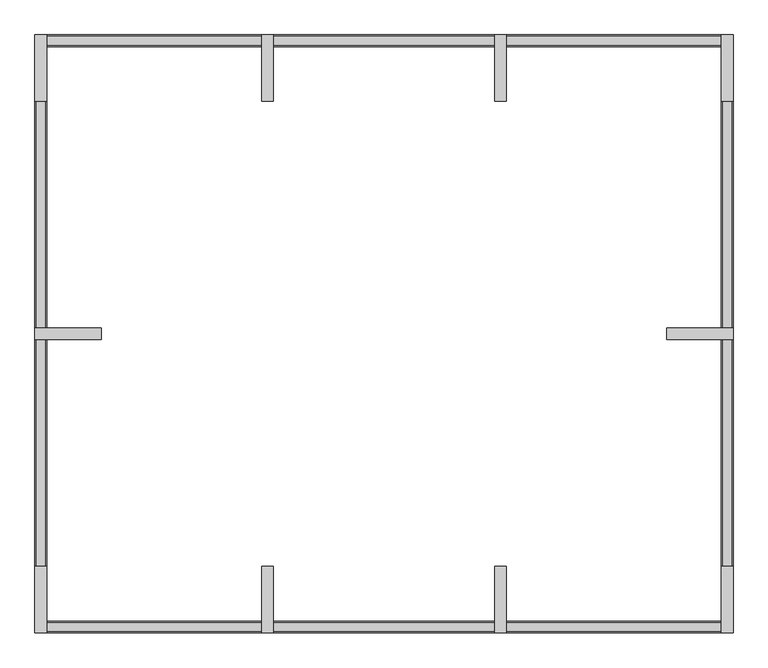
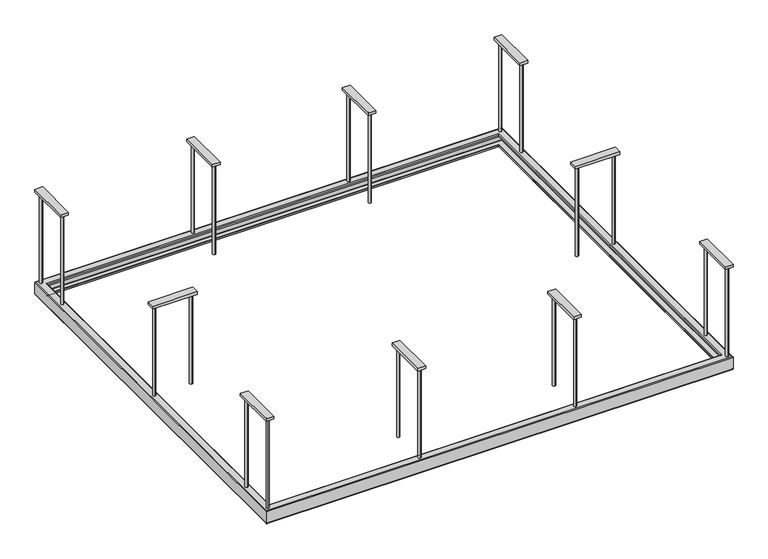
"""IFC4 building model written with IfcOpenShell, lengths in millimetres: furniture geometry, H07 Ducto laboratorios cuadrado : H07 Ducto laboratorios."""

from ifc_helpers import new_model, si_unit, point, frame, frame_2d, origin, place, context, project, spatial, polyline, circle_curve, ellipse_curve, trimmed, segment, composite_curve, outline, extrude, source, transform, mapped, element, save
from ifc_brep_helpers import plane_surface, cylinder_surface, revolved_surface, advanced_brep


def furniture_eb17cc9a(model_context):
    return source(origin(), model_context, "Body", "SolidModel", [
        advanced_brep(
        [(-1985.2996736, -3530.0, 2200.0), (-1985.2996736, -3530.0, 2214.0), (2074.7003264, -3530.0, 2214.0), (2074.7003264, -3530.0, 2200.0), (-1987.2996736, -3532.0, 2214.0), (-1987.2996736, -3532.0, 2200.0), (2076.7003264, -3532.0, 2200.0), (2076.7003264, -3532.0, 2214.0), (-1991.2996736, -3536.0, 2218.0), (2080.7003264, -3536.0, 2218.0), (-2053.2996736, -3598.0, 2214.0), (-2049.2996736, -3594.0, 2218.0), (2138.7003264, -3594.0, 2218.0), (2142.7003264, -3598.0, 2214.0), (-2053.2996736, -3598.0, 2106.0), (2142.7003264, -3598.0, 2106.0), (-2049.2996736, -3594.0, 2102.0), (2138.7003264, -3594.0, 2102.0), (-1987.2996736, -3532.0, 2106.0), (-1991.2996736, -3536.0, 2102.0), (2080.7003264, -3536.0, 2102.0), (2076.7003264, -3532.0, 2106.0), (-1987.2996736, -3532.0, 2120.0), (2076.7003264, -3532.0, 2120.0), (-1985.2996736, -3530.0, 2106.0), (-1985.2996736, -3530.0, 2120.0), (2074.7003264, -3530.0, 2120.0), (2074.7003264, -3530.0, 2106.0), (-1991.2996736, -3536.0, 2100.0), (2080.7003264, -3536.0, 2100.0), (-2055.2996736, -3600.0, 2106.0), (-2049.2996736, -3594.0, 2100.0), (2138.7003264, -3594.0, 2100.0), (2144.7003264, -3600.0, 2106.0), (-2055.2996736, -3600.0, 2214.0), (2144.7003264, -3600.0, 2214.0), (-2049.2996736, -3594.0, 2220.0), (2138.7003264, -3594.0, 2220.0), (-1991.2996736, -3536.0, 2220.0), (2080.7003264, -3536.0, 2220.0), (2074.7003264, -70.0, 2214.0), (2074.7003264, -70.0, 2200.0), (2076.7003264, -68.0, 2200.0), (2076.7003264, -68.0, 2214.0), (2080.7003264, -64.0, 2218.0), (2138.7003264, -6.0, 2218.0), (2142.7003264, -2.0, 2214.0), (2142.7003264, -2.0, 2106.0), (2138.7003264, -6.0, 2102.0), (2080.7003264, -64.0, 2102.0), (2076.7003264, -68.0, 2106.0), (2076.7003264, -68.0, 2120.0), (2074.7003264, -70.0, 2120.0), (2074.7003264, -70.0, 2106.0), (2080.7003264, -64.0, 2100.0), (2138.7003264, -6.0, 2100.0), (2144.7003264, 0.0, 2106.0), (2144.7003264, 0.0, 2214.0), (2138.7003264, -6.0, 2220.0), (2080.7003264, -64.0, 2220.0), (-1985.2996736, -70.0, 2214.0), (-1985.2996736, -70.0, 2200.0), (-1987.2996736, -68.0, 2200.0), (-1987.2996736, -68.0, 2214.0), (-1991.2996736, -64.0, 2218.0), (-2049.2996736, -6.0, 2218.0), (-2053.2996736, -2.0, 2214.0), (-2053.2996736, -2.0, 2106.0), (-2049.2996736, -6.0, 2102.0), (-1991.2996736, -64.0, 2102.0), (-1987.2996736, -68.0, 2106.0), (-1987.2996736, -68.0, 2120.0), (-1985.2996736, -70.0, 2120.0), (-1985.2996736, -70.0, 2106.0), (-1991.2996736, -64.0, 2100.0), (-2049.2996736, -6.0, 2100.0), (-2055.2996736, 0.0, 2106.0), (-2055.2996736, 0.0, 2214.0), (-2049.2996736, -6.0, 2220.0), (-1991.2996736, -64.0, 2220.0)],
        [
            (0, 1),
            (1, 2),
            (2, 3),
            (3, 0),
            (4, 5),
            (5, 6),
            (6, 7),
            (7, 4),
            (8, 4, ellipse_curve(frame((-1991.2996736, -3536.0, 2214.0), z_axis=(-0.7071067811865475, 0.7071067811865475, 0.0), x_axis=(0.7071067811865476, 0.7071067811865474, 0.0)), 5.6568542, 4.0)),
            (7, 9, ellipse_curve(frame((2080.7003264, -3536.0, 2214.0), z_axis=(0.7071067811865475, 0.7071067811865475, 0.0), x_axis=(0.7071067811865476, -0.7071067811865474, 0.0)), 5.6568542, 4.0)),
            (9, 8),
            (10, 11, ellipse_curve(frame((-2049.2996736, -3594.0, 2214.0), z_axis=(-0.7071067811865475, 0.7071067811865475, 0.0), x_axis=(0.7071067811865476, 0.7071067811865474, 0.0)), 5.6568542, 4.0)),
            (11, 12),
            (12, 13, ellipse_curve(frame((2138.7003264, -3594.0, 2214.0), z_axis=(0.7071067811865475, 0.7071067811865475, 0.0), x_axis=(0.7071067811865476, -0.7071067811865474, 0.0)), 5.6568542, 4.0)),
            (13, 10),
            (14, 10),
            (13, 15),
            (15, 14),
            (16, 14, ellipse_curve(frame((-2049.2996736, -3594.0, 2106.0), z_axis=(-0.7071067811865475, 0.7071067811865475, 0.0), x_axis=(0.7071067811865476, 0.7071067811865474, 0.0)), 5.6568542, 4.0)),
            (15, 17, ellipse_curve(frame((2138.7003264, -3594.0, 2106.0), z_axis=(0.7071067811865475, 0.7071067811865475, 0.0), x_axis=(0.7071067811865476, -0.7071067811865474, 0.0)), 5.6568542, 4.0)),
            (17, 16),
            (18, 19, ellipse_curve(frame((-1991.2996736, -3536.0, 2106.0), z_axis=(-0.7071067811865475, 0.7071067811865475, 0.0), x_axis=(0.7071067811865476, 0.7071067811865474, 0.0)), 5.6568542, 4.0)),
            (19, 20),
            (20, 21, ellipse_curve(frame((2080.7003264, -3536.0, 2106.0), z_axis=(0.7071067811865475, 0.7071067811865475, 0.0), x_axis=(0.7071067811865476, -0.7071067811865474, 0.0)), 5.6568542, 4.0)),
            (21, 18),
            (22, 18),
            (21, 23),
            (23, 22),
            (24, 25),
            (25, 26),
            (26, 27),
            (27, 24),
            (28, 24, ellipse_curve(frame((-1991.2996736, -3536.0, 2106.0), z_axis=(0.7071067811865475, -0.7071067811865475, 0.0), x_axis=(-0.7071067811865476, -0.7071067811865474, 0.0)), 8.4852814, 6.0)),
            (27, 29, ellipse_curve(frame((2080.7003264, -3536.0, 2106.0), z_axis=(-0.7071067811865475, -0.7071067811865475, 0.0), x_axis=(-0.7071067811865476, 0.7071067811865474, 0.0)), 8.4852814, 6.0)),
            (29, 28),
            (30, 31, ellipse_curve(frame((-2049.2996736, -3594.0, 2106.0), z_axis=(0.7071067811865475, -0.7071067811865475, 0.0), x_axis=(-0.7071067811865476, -0.7071067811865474, 0.0)), 8.4852814, 6.0)),
            (31, 32),
            (32, 33, ellipse_curve(frame((2138.7003264, -3594.0, 2106.0), z_axis=(-0.7071067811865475, -0.7071067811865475, 0.0), x_axis=(-0.7071067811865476, 0.7071067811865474, 0.0)), 8.4852814, 6.0)),
            (33, 30),
            (34, 30),
            (33, 35),
            (35, 34),
            (36, 34, ellipse_curve(frame((-2049.2996736, -3594.0, 2214.0), z_axis=(0.7071067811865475, -0.7071067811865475, 0.0), x_axis=(-0.7071067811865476, -0.7071067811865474, 0.0)), 8.4852814, 6.0)),
            (35, 37, ellipse_curve(frame((2138.7003264, -3594.0, 2214.0), z_axis=(-0.7071067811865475, -0.7071067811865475, 0.0), x_axis=(-0.7071067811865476, 0.7071067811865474, 0.0)), 8.4852814, 6.0)),
            (37, 36),
            (1, 38, ellipse_curve(frame((-1991.2996736, -3536.0, 2214.0), z_axis=(0.7071067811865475, -0.7071067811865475, 0.0), x_axis=(-0.7071067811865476, -0.7071067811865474, 0.0)), 8.4852814, 6.0)),
            (38, 39),
            (39, 2, ellipse_curve(frame((2080.7003264, -3536.0, 2214.0), z_axis=(-0.7071067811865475, -0.7071067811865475, 0.0), x_axis=(-0.7071067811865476, 0.7071067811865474, 0.0)), 8.4852814, 6.0)),
            (2, 40),
            (40, 41),
            (41, 3),
            (6, 42),
            (42, 43),
            (43, 7),
            (43, 44, ellipse_curve(frame((2080.7003264, -64.0, 2214.0), z_axis=(-0.7071067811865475, 0.7071067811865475, 0.0), x_axis=(0.7071067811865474, 0.7071067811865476, 0.0)), 5.6568542, 4.0)),
            (44, 9),
            (12, 45),
            (45, 46, ellipse_curve(frame((2138.7003264, -6.0, 2214.0), z_axis=(-0.7071067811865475, 0.7071067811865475, 0.0), x_axis=(0.7071067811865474, 0.7071067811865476, 0.0)), 5.6568542, 4.0)),
            (46, 13),
            (46, 47),
            (47, 15),
            (47, 48, ellipse_curve(frame((2138.7003264, -6.0, 2106.0), z_axis=(-0.7071067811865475, 0.7071067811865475, 0.0), x_axis=(0.7071067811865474, 0.7071067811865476, 0.0)), 5.6568542, 4.0)),
            (48, 17),
            (20, 49),
            (49, 50, ellipse_curve(frame((2080.7003264, -64.0, 2106.0), z_axis=(-0.7071067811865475, 0.7071067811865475, 0.0), x_axis=(0.7071067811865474, 0.7071067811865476, 0.0)), 5.6568542, 4.0)),
            (50, 21),
            (50, 51),
            (51, 23),
            (26, 52),
            (52, 53),
            (53, 27),
            (53, 54, ellipse_curve(frame((2080.7003264, -64.0, 2106.0), z_axis=(0.7071067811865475, -0.7071067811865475, 0.0), x_axis=(-0.7071067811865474, -0.7071067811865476, 0.0)), 8.4852814, 6.0)),
            (54, 29),
            (32, 55),
            (55, 56, ellipse_curve(frame((2138.7003264, -6.0, 2106.0), z_axis=(0.7071067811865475, -0.7071067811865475, 0.0), x_axis=(-0.7071067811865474, -0.7071067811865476, 0.0)), 8.4852814, 6.0)),
            (56, 33),
            (56, 57),
            (57, 35),
            (57, 58, ellipse_curve(frame((2138.7003264, -6.0, 2214.0), z_axis=(0.7071067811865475, -0.7071067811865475, 0.0), x_axis=(-0.7071067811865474, -0.7071067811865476, 0.0)), 8.4852814, 6.0)),
            (58, 37),
            (39, 59),
            (59, 40, ellipse_curve(frame((2080.7003264, -64.0, 2214.0), z_axis=(0.7071067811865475, -0.7071067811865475, 0.0), x_axis=(-0.7071067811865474, -0.7071067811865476, 0.0)), 8.4852814, 6.0)),
            (40, 60),
            (60, 61),
            (61, 41),
            (42, 62),
            (62, 63),
            (63, 43),
            (63, 64, ellipse_curve(frame((-1991.2996736, -64.0, 2214.0), z_axis=(-0.7071067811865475, -0.7071067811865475, 0.0), x_axis=(-0.7071067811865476, 0.7071067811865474, 0.0)), 5.6568542, 4.0)),
            (64, 44),
            (45, 65),
            (65, 66, ellipse_curve(frame((-2049.2996736, -6.0, 2214.0), z_axis=(-0.7071067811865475, -0.7071067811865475, 0.0), x_axis=(-0.7071067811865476, 0.7071067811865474, 0.0)), 5.6568542, 4.0)),
            (66, 46),
            (66, 67),
            (67, 47),
            (67, 68, ellipse_curve(frame((-2049.2996736, -6.0, 2106.0), z_axis=(-0.7071067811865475, -0.7071067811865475, 0.0), x_axis=(-0.7071067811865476, 0.7071067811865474, 0.0)), 5.6568542, 4.0)),
            (68, 48),
            (49, 69),
            (69, 70, ellipse_curve(frame((-1991.2996736, -64.0, 2106.0), z_axis=(-0.7071067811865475, -0.7071067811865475, 0.0), x_axis=(-0.7071067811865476, 0.7071067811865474, 0.0)), 5.6568542, 4.0)),
            (70, 50),
            (70, 71),
            (71, 51),
            (52, 72),
            (72, 73),
            (73, 53),
            (73, 74, ellipse_curve(frame((-1991.2996736, -64.0, 2106.0), z_axis=(0.7071067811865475, 0.7071067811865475, 0.0), x_axis=(0.7071067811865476, -0.7071067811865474, 0.0)), 8.4852814, 6.0)),
            (74, 54),
            (55, 75),
            (75, 76, ellipse_curve(frame((-2049.2996736, -6.0, 2106.0), z_axis=(0.7071067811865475, 0.7071067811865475, 0.0), x_axis=(0.7071067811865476, -0.7071067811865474, 0.0)), 8.4852814, 6.0)),
            (76, 56),
            (76, 77),
            (77, 57),
            (77, 78, ellipse_curve(frame((-2049.2996736, -6.0, 2214.0), z_axis=(0.7071067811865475, 0.7071067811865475, 0.0), x_axis=(0.7071067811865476, -0.7071067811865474, 0.0)), 8.4852814, 6.0)),
            (78, 58),
            (59, 79),
            (79, 60, ellipse_curve(frame((-1991.2996736, -64.0, 2214.0), z_axis=(0.7071067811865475, 0.7071067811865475, 0.0), x_axis=(0.7071067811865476, -0.7071067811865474, 0.0)), 8.4852814, 6.0)),
            (60, 1),
            (0, 61),
            (5, 62),
            (4, 63),
            (8, 64),
            (11, 65),
            (10, 66),
            (14, 67),
            (16, 68),
            (19, 69),
            (18, 70),
            (22, 71),
            (25, 72),
            (24, 73),
            (28, 74),
            (31, 75),
            (30, 76),
            (34, 77),
            (36, 78),
            (38, 79),
        ],
        [
            plane_surface(frame((-1985.2996736, -3530.0, 2214.0), z_axis=(0.0, 1.0, 0.0), x_axis=(1.0, 0.0, 0.0))),
            plane_surface(frame((-1987.2996736, -3532.0, 2200.0), z_axis=(0.0, -1.0, 0.0), x_axis=(1.0, 0.0, 0.0))),
            revolved_surface(polyline([(2084.7003263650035, -3532.0, 2214.0), (-1995.2996735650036, -3532.0, 2214.0)]), (-2055.2996736, -3536.0, 2214.0), (1.0, 0.0, 0.0)),
            revolved_surface(polyline([(2142.7003264, -3590.0, 2214.0), (-2053.2996736, -3590.0, 2214.0)]), (-2055.2996736, -3594.0, 2214.0), (1.0, 0.0, 0.0)),
            plane_surface(frame((-2053.2996736, -3598.0, 2214.0), z_axis=(0.0, 1.0, 0.0), x_axis=(1.0, 0.0, 0.0))),
            revolved_surface(polyline([(2142.7003264, -3590.0, 2106.0), (-2053.2996736, -3590.0, 2106.0)]), (-2055.2996736, -3594.0, 2106.0), (1.0, 0.0, 0.0)),
            revolved_surface(polyline([(2084.7003263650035, -3532.0, 2106.0), (-1995.2996735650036, -3532.0, 2106.0)]), (-2055.2996736, -3536.0, 2106.0), (1.0, 0.0, 0.0)),
            plane_surface(frame((-1987.2996736, -3532.0, 2106.0), z_axis=(0.0, -1.0, 0.0), x_axis=(1.0, 0.0, 0.0))),
            plane_surface(frame((-1985.2996736, -3530.0, 2120.0), z_axis=(0.0, 1.0, 0.0), x_axis=(1.0, 0.0, 0.0))),
            cylinder_surface(frame((-2055.2996736, -3536.0, 2106.0), z_axis=(-1.0, 0.0, 0.0), x_axis=(0.0, 1.0, 0.0)), 6.0),
            cylinder_surface(frame((-2055.2996736, -3594.0, 2106.0), z_axis=(-1.0, 0.0, 0.0), x_axis=(0.0, 1.0, 0.0)), 6.0),
            plane_surface(frame((-2055.2996736, -3600.0, 2106.0), z_axis=(0.0, -1.0, 0.0), x_axis=(1.0, 0.0, 0.0))),
            cylinder_surface(frame((-2055.2996736, -3594.0, 2214.0), z_axis=(-1.0, 0.0, 0.0), x_axis=(0.0, 1.0, 0.0)), 6.0),
            cylinder_surface(frame((-2055.2996736, -3536.0, 2214.0), z_axis=(-1.0, 0.0, 0.0), x_axis=(0.0, 1.0, 0.0)), 6.0),
            plane_surface(frame((2074.7003264, -3530.0, 2214.0), z_axis=(-1.0, 0.0, 0.0), x_axis=(0.0, 1.0, 0.0))),
            plane_surface(frame((2076.7003264, -3532.0, 2200.0), z_axis=(1.0, 0.0, 0.0), x_axis=(0.0, 1.0, 0.0))),
            revolved_surface(polyline([(2076.7003264, -60.00000003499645, 2214.0), (2076.7003264, -3539.9999999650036, 2214.0)]), (2080.7003264, -3600.0, 2214.0), (0.0, 1.0, 0.0)),
            revolved_surface(polyline([(2134.7003264, -2.0, 2214.0), (2134.7003264, -3598.0, 2214.0)]), (2138.7003264, -3600.0, 2214.0), (0.0, 1.0, 0.0)),
            plane_surface(frame((2142.7003264, -3598.0, 2214.0), z_axis=(-1.0, 0.0, 0.0), x_axis=(0.0, 1.0, 0.0))),
            revolved_surface(polyline([(2134.7003264, -2.0, 2106.0), (2134.7003264, -3598.0, 2106.0)]), (2138.7003264, -3600.0, 2106.0), (0.0, 1.0, 0.0)),
            revolved_surface(polyline([(2076.7003264, -60.00000003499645, 2106.0), (2076.7003264, -3539.9999999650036, 2106.0)]), (2080.7003264, -3600.0, 2106.0), (0.0, 1.0, 0.0)),
            plane_surface(frame((2076.7003264, -3532.0, 2106.0), z_axis=(1.0, 0.0, 0.0), x_axis=(0.0, 1.0, 0.0))),
            plane_surface(frame((2074.7003264, -3530.0, 2120.0), z_axis=(-1.0, 0.0, 0.0), x_axis=(0.0, 1.0, 0.0))),
            cylinder_surface(frame((2080.7003264, -3600.0, 2106.0), z_axis=(0.0, -1.0, 0.0), x_axis=(-1.0, 0.0, 0.0)), 6.0),
            cylinder_surface(frame((2138.7003264, -3600.0, 2106.0), z_axis=(0.0, -1.0, 0.0), x_axis=(-1.0, 0.0, 0.0)), 6.0),
            plane_surface(frame((2144.7003264, -3600.0, 2106.0), z_axis=(1.0, 0.0, 0.0), x_axis=(0.0, 1.0, 0.0))),
            cylinder_surface(frame((2138.7003264, -3600.0, 2214.0), z_axis=(0.0, -1.0, 0.0), x_axis=(-1.0, 0.0, 0.0)), 6.0),
            cylinder_surface(frame((2080.7003264, -3600.0, 2214.0), z_axis=(0.0, -1.0, 0.0), x_axis=(-1.0, 0.0, 0.0)), 6.0),
            plane_surface(frame((2074.7003264, -70.0, 2214.0), z_axis=(0.0, -1.0, 0.0), x_axis=(-1.0, 0.0, 0.0))),
            plane_surface(frame((2076.7003264, -68.0, 2200.0), z_axis=(0.0, 1.0, 0.0), x_axis=(-1.0, 0.0, 0.0))),
            revolved_surface(polyline([(-1995.2996735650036, -68.0, 2214.0), (2084.7003263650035, -68.0, 2214.0)]), (2144.7003264, -64.0, 2214.0), (-1.0, 0.0, 0.0)),
            revolved_surface(polyline([(-2053.2996736, -10.0, 2214.0), (2142.7003264, -10.0, 2214.0)]), (2144.7003264, -6.0, 2214.0), (-1.0, 0.0, 0.0)),
            plane_surface(frame((2142.7003264, -2.0, 2214.0), z_axis=(0.0, -1.0, 0.0), x_axis=(-1.0, 0.0, 0.0))),
            revolved_surface(polyline([(-2053.2996736, -10.0, 2106.0), (2142.7003264, -10.0, 2106.0)]), (2144.7003264, -6.0, 2106.0), (-1.0, 0.0, 0.0)),
            revolved_surface(polyline([(-1995.2996735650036, -68.0, 2106.0), (2084.7003263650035, -68.0, 2106.0)]), (2144.7003264, -64.0, 2106.0), (-1.0, 0.0, 0.0)),
            plane_surface(frame((2076.7003264, -68.0, 2106.0), z_axis=(0.0, 1.0, 0.0), x_axis=(-1.0, 0.0, 0.0))),
            plane_surface(frame((2074.7003264, -70.0, 2120.0), z_axis=(0.0, -1.0, 0.0), x_axis=(-1.0, 0.0, 0.0))),
            cylinder_surface(frame((2144.7003264, -64.0, 2106.0), z_axis=(1.0, 0.0, 0.0), x_axis=(0.0, -1.0, 0.0)), 6.0),
            cylinder_surface(frame((2144.7003264, -6.0, 2106.0), z_axis=(1.0, 0.0, 0.0), x_axis=(0.0, -1.0, 0.0)), 6.0),
            plane_surface(frame((2144.7003264, 0.0, 2106.0), z_axis=(0.0, 1.0, 0.0), x_axis=(-1.0, 0.0, 0.0))),
            cylinder_surface(frame((2144.7003264, -6.0, 2214.0), z_axis=(1.0, 0.0, 0.0), x_axis=(0.0, -1.0, 0.0)), 6.0),
            cylinder_surface(frame((2144.7003264, -64.0, 2214.0), z_axis=(1.0, 0.0, 0.0), x_axis=(0.0, -1.0, 0.0)), 6.0),
            plane_surface(frame((-1985.2996736, -70.0, 2214.0), z_axis=(1.0, 0.0, 0.0), x_axis=(0.0, -1.0, 0.0))),
            plane_surface(frame((-1985.2996736, -70.0, 2200.0), z_axis=(0.0, 0.0, -1.0), x_axis=(0.0, -1.0, 0.0))),
            plane_surface(frame((-1987.2996736, -68.0, 2200.0), z_axis=(-1.0, 0.0, 0.0), x_axis=(0.0, -1.0, 0.0))),
            revolved_surface(polyline([(-1987.2996736, -3539.9999999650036, 2214.0), (-1987.2996736, -60.0000000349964, 2214.0)]), (-1991.2996736, 0.0, 2214.0), (0.0, -1.0, 0.0)),
            plane_surface(frame((-1991.2996736, -64.0, 2218.0), z_axis=(0.0, 0.0, -1.0), x_axis=(0.0, -1.0, 0.0))),
            revolved_surface(polyline([(-2045.2996736, -3598.0, 2214.0), (-2045.2996736, -2.0, 2214.0)]), (-2049.2996736, 0.0, 2214.0), (0.0, -1.0, 0.0)),
            plane_surface(frame((-2053.2996736, -2.0, 2214.0), z_axis=(1.0, 0.0, 0.0), x_axis=(0.0, -1.0, 0.0))),
            revolved_surface(polyline([(-2045.2996736, -3598.0, 2106.0), (-2045.2996736, -2.0, 2106.0)]), (-2049.2996736, 0.0, 2106.0), (0.0, -1.0, 0.0)),
            plane_surface(frame((-2049.2996736, -6.0, 2102.0), z_axis=(0.0, 0.0, 1.0), x_axis=(0.0, -1.0, 0.0))),
            revolved_surface(polyline([(-1987.2996736, -3539.9999999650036, 2106.0), (-1987.2996736, -60.0000000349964, 2106.0)]), (-1991.2996736, 0.0, 2106.0), (0.0, -1.0, 0.0)),
            plane_surface(frame((-1987.2996736, -68.0, 2106.0), z_axis=(-1.0, 0.0, 0.0), x_axis=(0.0, -1.0, 0.0))),
            plane_surface(frame((-1987.2996736, -68.0, 2120.0), z_axis=(0.0, 0.0, 1.0), x_axis=(0.0, -1.0, 0.0))),
            plane_surface(frame((-1985.2996736, -70.0, 2120.0), z_axis=(1.0, 0.0, 0.0), x_axis=(0.0, -1.0, 0.0))),
            cylinder_surface(frame((-1991.2996736, 0.0, 2106.0), z_axis=(0.0, 1.0, 0.0), x_axis=(1.0, 0.0, 0.0)), 6.0),
            plane_surface(frame((-1991.2996736, -64.0, 2100.0), z_axis=(0.0, 0.0, -1.0), x_axis=(0.0, -1.0, 0.0))),
            cylinder_surface(frame((-2049.2996736, 0.0, 2106.0), z_axis=(0.0, 1.0, 0.0), x_axis=(1.0, 0.0, 0.0)), 6.0),
            plane_surface(frame((-2055.2996736, 0.0, 2106.0), z_axis=(-1.0, 0.0, 0.0), x_axis=(0.0, -1.0, 0.0))),
            cylinder_surface(frame((-2049.2996736, 0.0, 2214.0), z_axis=(0.0, 1.0, 0.0), x_axis=(1.0, 0.0, 0.0)), 6.0),
            plane_surface(frame((-2049.2996736, -6.0, 2220.0), z_axis=(0.0, 0.0, 1.0), x_axis=(0.0, -1.0, 0.0))),
            cylinder_surface(frame((-1991.2996736, 0.0, 2214.0), z_axis=(0.0, 1.0, 0.0), x_axis=(1.0, 0.0, 0.0)), 6.0),
        ],
        [
            (0, [[1, 2, 3, 4]]),
            (1, [[5, 6, 7, 8]]),
            (2, [[9, -8, 10, 11]]),
            (3, [[12, 13, 14, 15]]),
            (4, [[16, -15, 17, 18]]),
            (5, [[19, -18, 20, 21]]),
            (6, [[22, 23, 24, 25]]),
            (7, [[26, -25, 27, 28]]),
            (8, [[29, 30, 31, 32]]),
            (9, [[33, -32, 34, 35]]),
            (10, [[36, 37, 38, 39]]),
            (11, [[40, -39, 41, 42]]),
            (12, [[43, -42, 44, 45]]),
            (13, [[46, 47, 48, -2]]),
            (14, [[-3, 49, 50, 51]]),
            (15, [[-7, 52, 53, 54]]),
            (16, [[-10, -54, 55, 56]]),
            (17, [[-14, 57, 58, 59]]),
            (18, [[-17, -59, 60, 61]]),
            (19, [[-20, -61, 62, 63]]),
            (20, [[-24, 64, 65, 66]]),
            (21, [[-27, -66, 67, 68]]),
            (22, [[-31, 69, 70, 71]]),
            (23, [[-34, -71, 72, 73]]),
            (24, [[-38, 74, 75, 76]]),
            (25, [[-41, -76, 77, 78]]),
            (26, [[-44, -78, 79, 80]]),
            (27, [[-48, 81, 82, -49]]),
            (28, [[-50, 83, 84, 85]]),
            (29, [[-53, 86, 87, 88]]),
            (30, [[-55, -88, 89, 90]]),
            (31, [[-58, 91, 92, 93]]),
            (32, [[-60, -93, 94, 95]]),
            (33, [[-62, -95, 96, 97]]),
            (34, [[-65, 98, 99, 100]]),
            (35, [[-67, -100, 101, 102]]),
            (36, [[-70, 103, 104, 105]]),
            (37, [[-72, -105, 106, 107]]),
            (38, [[-75, 108, 109, 110]]),
            (39, [[-77, -110, 111, 112]]),
            (40, [[-79, -112, 113, 114]]),
            (41, [[-82, 115, 116, -83]]),
            (42, [[-84, 117, -1, 118]]),
            (43, [[119, -86, -52, -6], [-51, -85, -118, -4]]),
            (44, [[-87, -119, -5, 120]]),
            (45, [[-89, -120, -9, 121]]),
            (46, [[122, -91, -57, -13], [-56, -90, -121, -11]]),
            (47, [[-92, -122, -12, 123]]),
            (48, [[-94, -123, -16, 124]]),
            (49, [[-96, -124, -19, 125]]),
            (50, [[-63, -97, -125, -21], [126, -98, -64, -23]]),
            (51, [[-99, -126, -22, 127]]),
            (52, [[-101, -127, -26, 128]]),
            (53, [[-68, -102, -128, -28], [129, -103, -69, -30]]),
            (54, [[-104, -129, -29, 130]]),
            (55, [[-106, -130, -33, 131]]),
            (56, [[132, -108, -74, -37], [-73, -107, -131, -35]]),
            (57, [[-109, -132, -36, 133]]),
            (58, [[-111, -133, -40, 134]]),
            (59, [[-113, -134, -43, 135]]),
            (60, [[-80, -114, -135, -45], [136, -115, -81, -47]]),
            (61, [[-116, -136, -46, -117]]),
        ],
    ),
        extrude(outline(polyline([(2144.7003264, 0.0), (2144.7003264, -400.0), (2074.7003264, -400.0), (2074.7003264, 0.0), (2144.7003264, 0.0)])), frame((0.0, 0.0, 3075.0), z_axis=(0.0, 0.0, 1.0), x_axis=(1.0, 0.0, 0.0)), (0.0, 0.0, 1.0), 25.0),
        extrude(outline(polyline([(779.7003264, 0.0), (779.7003264, -400.0), (709.7003264, -400.0), (709.7003264, 0.0), (779.7003264, 0.0)])), frame((0.0, 0.0, 3075.0), z_axis=(0.0, 0.0, 1.0), x_axis=(1.0, 0.0, 0.0)), (0.0, 0.0, 1.0), 25.0),
        extrude(outline(polyline([(-620.2996736, 0.0), (-620.2996736, -400.0), (-690.2996736, -400.0), (-690.2996736, 0.0), (-620.2996736, 0.0)])), frame((0.0, 0.0, 3075.0), z_axis=(0.0, 0.0, 1.0), x_axis=(1.0, 0.0, 0.0)), (0.0, 0.0, 1.0), 25.0),
        extrude(outline(polyline([(-1985.2996736, 0.0), (-1985.2996736, -400.0), (-2055.2996736, -400.0), (-2055.2996736, 0.0), (-1985.2996736, 0.0)])), frame((0.0, 0.0, 3075.0), z_axis=(0.0, 0.0, 1.0), x_axis=(1.0, 0.0, 0.0)), (0.0, 0.0, 1.0), 25.0),
        extrude(outline(polyline([(2144.7003264, -3200.0), (2144.7003264, -3600.0), (2074.7003264, -3600.0), (2074.7003264, -3200.0), (2144.7003264, -3200.0)])), frame((0.0, 0.0, 3075.0), z_axis=(0.0, 0.0, 1.0), x_axis=(1.0, 0.0, 0.0)), (0.0, 0.0, 1.0), 25.0),
        extrude(outline(polyline([(779.7003264, -3200.0), (779.7003264, -3600.0), (709.7003264, -3600.0), (709.7003264, -3200.0), (779.7003264, -3200.0)])), frame((0.0, 0.0, 3075.0), z_axis=(0.0, 0.0, 1.0), x_axis=(1.0, 0.0, 0.0)), (0.0, 0.0, 1.0), 25.0),
        extrude(outline(polyline([(-620.2996736, -3200.0), (-620.2996736, -3600.0), (-690.2996736, -3600.0), (-690.2996736, -3200.0), (-620.2996736, -3200.0)])), frame((0.0, 0.0, 3075.0), z_axis=(0.0, 0.0, 1.0), x_axis=(1.0, 0.0, 0.0)), (0.0, 0.0, 1.0), 25.0),
        extrude(outline(polyline([(-1985.2996736, -3200.0), (-1985.2996736, -3600.0), (-2055.2996736, -3600.0), (-2055.2996736, -3200.0), (-1985.2996736, -3200.0)])), frame((0.0, 0.0, 3075.0), z_axis=(0.0, 0.0, 1.0), x_axis=(1.0, 0.0, 0.0)), (0.0, 0.0, 1.0), 25.0),
        extrude(outline(polyline([(-1655.2996736, -1765.0), (-1655.2996736, -1835.0), (-2055.2996736, -1835.0), (-2055.2996736, -1765.0), (-1655.2996736, -1765.0)])), frame((0.0, 0.0, 3075.0), z_axis=(0.0, 0.0, 1.0), x_axis=(1.0, 0.0, 0.0)), (0.0, 0.0, 1.0), 25.0),
        extrude(outline(polyline([(2144.7003264, -1765.0), (2144.7003264, -1835.0), (1744.7003264, -1835.0), (1744.7003264, -1765.0), (2144.7003264, -1765.0)])), frame((0.0, 0.0, 3075.0), z_axis=(0.0, 0.0, 1.0), x_axis=(1.0, 0.0, 0.0)), (0.0, 0.0, 1.0), 25.0),
        extrude(outline(composite_curve([segment(trimmed(circle_curve(frame_2d((-2020.2996736, -35.0)), 12.7), [point((-2020.2996736, -22.3))], [point((-2020.2996736, -47.7))], False, "CARTESIAN"), True, "CONTINUOUS"), segment(trimmed(circle_curve(frame_2d((-2020.2996736, -35.0)), 12.7), [point((-2020.2996736, -47.7))], [point((-2020.2996736, -22.3))], False, "CARTESIAN"), True, "CONTINUOUS")], self_intersect=False)), frame((0.0, 0.0, 2220.0), z_axis=(0.0, 0.0, 1.0), x_axis=(1.0, 0.0, 0.0)), (0.0, 0.0, 1.0), 855.0),
        extrude(outline(composite_curve([segment(trimmed(circle_curve(frame_2d((-655.2996736, -35.0)), 12.7), [point((-655.2996736, -22.3))], [point((-655.2996736, -47.7))], False, "CARTESIAN"), True, "CONTINUOUS"), segment(trimmed(circle_curve(frame_2d((-655.2996736, -35.0)), 12.7), [point((-655.2996736, -47.7))], [point((-655.2996736, -22.3))], False, "CARTESIAN"), True, "CONTINUOUS")], self_intersect=False)), frame((0.0, 0.0, 2220.0), z_axis=(0.0, 0.0, 1.0), x_axis=(1.0, 0.0, 0.0)), (0.0, 0.0, 1.0), 855.0),
        extrude(outline(composite_curve([segment(trimmed(circle_curve(frame_2d((744.7003264, -35.0)), 12.7), [point((744.7003264, -22.3))], [point((744.7003264, -47.7))], False, "CARTESIAN"), True, "CONTINUOUS"), segment(trimmed(circle_curve(frame_2d((744.7003264, -35.0)), 12.7), [point((744.7003264, -47.7))], [point((744.7003264, -22.3))], False, "CARTESIAN"), True, "CONTINUOUS")], self_intersect=False)), frame((0.0, 0.0, 2220.0), z_axis=(0.0, 0.0, 1.0), x_axis=(1.0, 0.0, 0.0)), (0.0, 0.0, 1.0), 855.0),
        extrude(outline(composite_curve([segment(trimmed(circle_curve(frame_2d((2109.7003264, -35.0)), 12.7), [point((2109.7003264, -22.3))], [point((2109.7003264, -47.7))], False, "CARTESIAN"), True, "CONTINUOUS"), segment(trimmed(circle_curve(frame_2d((2109.7003264, -35.0)), 12.7), [point((2109.7003264, -47.7))], [point((2109.7003264, -22.3))], False, "CARTESIAN"), True, "CONTINUOUS")], self_intersect=False)), frame((0.0, 0.0, 2220.0), z_axis=(0.0, 0.0, 1.0), x_axis=(1.0, 0.0, 0.0)), (0.0, 0.0, 1.0), 855.0),
        extrude(outline(composite_curve([segment(trimmed(circle_curve(frame_2d((-655.2996736, -365.0)), 12.7), [point((-655.2996736, -352.3))], [point((-655.2996736, -377.7))], False, "CARTESIAN"), True, "CONTINUOUS"), segment(trimmed(circle_curve(frame_2d((-655.2996736, -365.0)), 12.7), [point((-655.2996736, -377.7))], [point((-655.2996736, -352.3))], False, "CARTESIAN"), True, "CONTINUOUS")], self_intersect=False)), frame((0.0, 0.0, 2220.0), z_axis=(0.0, 0.0, 1.0), x_axis=(1.0, 0.0, 0.0)), (0.0, 0.0, 1.0), 855.0),
        extrude(outline(composite_curve([segment(trimmed(circle_curve(frame_2d((744.7003264, -365.0)), 12.7), [point((744.7003264, -352.3))], [point((744.7003264, -377.7))], False, "CARTESIAN"), True, "CONTINUOUS"), segment(trimmed(circle_curve(frame_2d((744.7003264, -365.0)), 12.7), [point((744.7003264, -377.7))], [point((744.7003264, -352.3))], False, "CARTESIAN"), True, "CONTINUOUS")], self_intersect=False)), frame((0.0, 0.0, 2220.0), z_axis=(0.0, 0.0, 1.0), x_axis=(1.0, 0.0, 0.0)), (0.0, 0.0, 1.0), 855.0),
        extrude(outline(composite_curve([segment(trimmed(circle_curve(frame_2d((-2020.2996736, -365.0)), 12.7), [point((-2020.2996736, -352.3))], [point((-2020.2996736, -377.7))], False, "CARTESIAN"), True, "CONTINUOUS"), segment(trimmed(circle_curve(frame_2d((-2020.2996736, -365.0)), 12.7), [point((-2020.2996736, -377.7))], [point((-2020.2996736, -352.3))], False, "CARTESIAN"), True, "CONTINUOUS")], self_intersect=False)), frame((0.0, 0.0, 2220.0), z_axis=(0.0, 0.0, 1.0), x_axis=(1.0, 0.0, 0.0)), (0.0, 0.0, 1.0), 855.0),
        extrude(outline(composite_curve([segment(trimmed(circle_curve(frame_2d((2109.7003264, -365.0)), 12.7), [point((2109.7003264, -352.3))], [point((2109.7003264, -377.7))], False, "CARTESIAN"), True, "CONTINUOUS"), segment(trimmed(circle_curve(frame_2d((2109.7003264, -365.0)), 12.7), [point((2109.7003264, -377.7))], [point((2109.7003264, -352.3))], False, "CARTESIAN"), True, "CONTINUOUS")], self_intersect=False)), frame((0.0, 0.0, 2220.0), z_axis=(0.0, 0.0, 1.0), x_axis=(1.0, 0.0, 0.0)), (0.0, 0.0, 1.0), 855.0),
        extrude(outline(composite_curve([segment(trimmed(circle_curve(frame_2d((-655.2996736, -3235.0)), 12.7), [point((-655.2996736, -3222.3))], [point((-655.2996736, -3247.7))], False, "CARTESIAN"), True, "CONTINUOUS"), segment(trimmed(circle_curve(frame_2d((-655.2996736, -3235.0)), 12.7), [point((-655.2996736, -3247.7))], [point((-655.2996736, -3222.3))], False, "CARTESIAN"), True, "CONTINUOUS")], self_intersect=False)), frame((0.0, 0.0, 2220.0), z_axis=(0.0, 0.0, 1.0), x_axis=(1.0, 0.0, 0.0)), (0.0, 0.0, 1.0), 855.0),
        extrude(outline(composite_curve([segment(trimmed(circle_curve(frame_2d((744.7003264, -3235.0)), 12.7), [point((744.7003264, -3222.3))], [point((744.7003264, -3247.7))], False, "CARTESIAN"), True, "CONTINUOUS"), segment(trimmed(circle_curve(frame_2d((744.7003264, -3235.0)), 12.7), [point((744.7003264, -3247.7))], [point((744.7003264, -3222.3))], False, "CARTESIAN"), True, "CONTINUOUS")], self_intersect=False)), frame((0.0, 0.0, 2220.0), z_axis=(0.0, 0.0, 1.0), x_axis=(1.0, 0.0, 0.0)), (0.0, 0.0, 1.0), 855.0),
        extrude(outline(composite_curve([segment(trimmed(circle_curve(frame_2d((-2020.2996736, -3235.0)), 12.7), [point((-2020.2996736, -3222.3))], [point((-2020.2996736, -3247.7))], False, "CARTESIAN"), True, "CONTINUOUS"), segment(trimmed(circle_curve(frame_2d((-2020.2996736, -3235.0)), 12.7), [point((-2020.2996736, -3247.7))], [point((-2020.2996736, -3222.3))], False, "CARTESIAN"), True, "CONTINUOUS")], self_intersect=False)), frame((0.0, 0.0, 2220.0), z_axis=(0.0, 0.0, 1.0), x_axis=(1.0, 0.0, 0.0)), (0.0, 0.0, 1.0), 855.0),
        extrude(outline(composite_curve([segment(trimmed(circle_curve(frame_2d((2109.7003264, -3235.0)), 12.7), [point((2109.7003264, -3222.3))], [point((2109.7003264, -3247.7))], False, "CARTESIAN"), True, "CONTINUOUS"), segment(trimmed(circle_curve(frame_2d((2109.7003264, -3235.0)), 12.7), [point((2109.7003264, -3247.7))], [point((2109.7003264, -3222.3))], False, "CARTESIAN"), True, "CONTINUOUS")], self_intersect=False)), frame((0.0, 0.0, 2220.0), z_axis=(0.0, 0.0, 1.0), x_axis=(1.0, 0.0, 0.0)), (0.0, 0.0, 1.0), 855.0),
        extrude(outline(composite_curve([segment(trimmed(circle_curve(frame_2d((-2020.2996736, -3565.0)), 12.7), [point((-2020.2996736, -3552.3))], [point((-2020.2996736, -3577.7))], False, "CARTESIAN"), True, "CONTINUOUS"), segment(trimmed(circle_curve(frame_2d((-2020.2996736, -3565.0)), 12.7), [point((-2020.2996736, -3577.7))], [point((-2020.2996736, -3552.3))], False, "CARTESIAN"), True, "CONTINUOUS")], self_intersect=False)), frame((0.0, 0.0, 2220.0), z_axis=(0.0, 0.0, 1.0), x_axis=(1.0, 0.0, 0.0)), (0.0, 0.0, 1.0), 855.0),
        extrude(outline(composite_curve([segment(trimmed(circle_curve(frame_2d((-655.2996736, -3565.0)), 12.7), [point((-655.2996736, -3552.3))], [point((-655.2996736, -3577.7))], False, "CARTESIAN"), True, "CONTINUOUS"), segment(trimmed(circle_curve(frame_2d((-655.2996736, -3565.0)), 12.7), [point((-655.2996736, -3577.7))], [point((-655.2996736, -3552.3))], False, "CARTESIAN"), True, "CONTINUOUS")], self_intersect=False)), frame((0.0, 0.0, 2220.0), z_axis=(0.0, 0.0, 1.0), x_axis=(1.0, 0.0, 0.0)), (0.0, 0.0, 1.0), 855.0),
        extrude(outline(composite_curve([segment(trimmed(circle_curve(frame_2d((744.7003264, -3565.0)), 12.7), [point((744.7003264, -3552.3))], [point((744.7003264, -3577.7))], False, "CARTESIAN"), True, "CONTINUOUS"), segment(trimmed(circle_curve(frame_2d((744.7003264, -3565.0)), 12.7), [point((744.7003264, -3577.7))], [point((744.7003264, -3552.3))], False, "CARTESIAN"), True, "CONTINUOUS")], self_intersect=False)), frame((0.0, 0.0, 2220.0), z_axis=(0.0, 0.0, 1.0), x_axis=(1.0, 0.0, 0.0)), (0.0, 0.0, 1.0), 855.0),
        extrude(outline(composite_curve([segment(trimmed(circle_curve(frame_2d((2109.7003264, -3565.0)), 12.7), [point((2109.7003264, -3552.3))], [point((2109.7003264, -3577.7))], False, "CARTESIAN"), True, "CONTINUOUS"), segment(trimmed(circle_curve(frame_2d((2109.7003264, -3565.0)), 12.7), [point((2109.7003264, -3577.7))], [point((2109.7003264, -3552.3))], False, "CARTESIAN"), True, "CONTINUOUS")], self_intersect=False)), frame((0.0, 0.0, 2220.0), z_axis=(0.0, 0.0, 1.0), x_axis=(1.0, 0.0, 0.0)), (0.0, 0.0, 1.0), 855.0),
        extrude(outline(composite_curve([segment(trimmed(circle_curve(frame_2d((-2020.2996736, -1800.0)), 12.7), [point((-2020.2996736, -1787.3))], [point((-2020.2996736, -1812.7))], False, "CARTESIAN"), True, "CONTINUOUS"), segment(trimmed(circle_curve(frame_2d((-2020.2996736, -1800.0)), 12.7), [point((-2020.2996736, -1812.7))], [point((-2020.2996736, -1787.3))], False, "CARTESIAN"), True, "CONTINUOUS")], self_intersect=False)), frame((0.0, 0.0, 2220.0), z_axis=(0.0, 0.0, 1.0), x_axis=(1.0, 0.0, 0.0)), (0.0, 0.0, 1.0), 855.0),
        extrude(outline(composite_curve([segment(trimmed(circle_curve(frame_2d((-1690.2996736, -1800.0)), 12.7), [point((-1690.2996736, -1787.3))], [point((-1690.2996736, -1812.7))], False, "CARTESIAN"), True, "CONTINUOUS"), segment(trimmed(circle_curve(frame_2d((-1690.2996736, -1800.0)), 12.7), [point((-1690.2996736, -1812.7))], [point((-1690.2996736, -1787.3))], False, "CARTESIAN"), True, "CONTINUOUS")], self_intersect=False)), frame((0.0, 0.0, 2220.0), z_axis=(0.0, 0.0, 1.0), x_axis=(1.0, 0.0, 0.0)), (0.0, 0.0, 1.0), 855.0),
        extrude(outline(composite_curve([segment(trimmed(circle_curve(frame_2d((1779.7003264, -1800.0)), 12.7), [point((1779.7003264, -1787.3))], [point((1779.7003264, -1812.7))], False, "CARTESIAN"), True, "CONTINUOUS"), segment(trimmed(circle_curve(frame_2d((1779.7003264, -1800.0)), 12.7), [point((1779.7003264, -1812.7))], [point((1779.7003264, -1787.3))], False, "CARTESIAN"), True, "CONTINUOUS")], self_intersect=False)), frame((0.0, 0.0, 2220.0), z_axis=(0.0, 0.0, 1.0), x_axis=(1.0, 0.0, 0.0)), (0.0, 0.0, 1.0), 855.0),
        extrude(outline(composite_curve([segment(trimmed(circle_curve(frame_2d((2109.7003264, -1800.0)), 12.7), [point((2109.7003264, -1787.3))], [point((2109.7003264, -1812.7))], False, "CARTESIAN"), True, "CONTINUOUS"), segment(trimmed(circle_curve(frame_2d((2109.7003264, -1800.0)), 12.7), [point((2109.7003264, -1812.7))], [point((2109.7003264, -1787.3))], False, "CARTESIAN"), True, "CONTINUOUS")], self_intersect=False)), frame((0.0, 0.0, 2220.0), z_axis=(0.0, 0.0, 1.0), x_axis=(1.0, 0.0, 0.0)), (0.0, 0.0, 1.0), 855.0),
    ])


if __name__ == "__main__":
    model = new_model("IFC4")
    model_context = context("Model", 3, world=origin())
    ifc_project = project(units=[si_unit("LENGTHUNIT", "METRE", prefix="MILLI")], contexts=[model_context])
    site = spatial("IfcSite", under=ifc_project)
    building = spatial("IfcBuilding", under=site)
    placement = place(None, origin())
    furniture_shape = furniture_eb17cc9a(model_context)
    element("IfcFurniture", 1, ObjectType="H07 Ducto laboratorios cuadrado : H07 Ducto laboratorios", at=placement, inside=building, context=model_context, shape_type="MappedRepresentation", body=[
        mapped(furniture_shape, transform((0.0, 0.0, 0.0), x_axis=(1.0, 0.0, 0.0), y_axis=(0.0, 1.0, 0.0), z_axis=(0.0, 0.0, 1.0))),
    ])
    save(model, "model.ifc")
